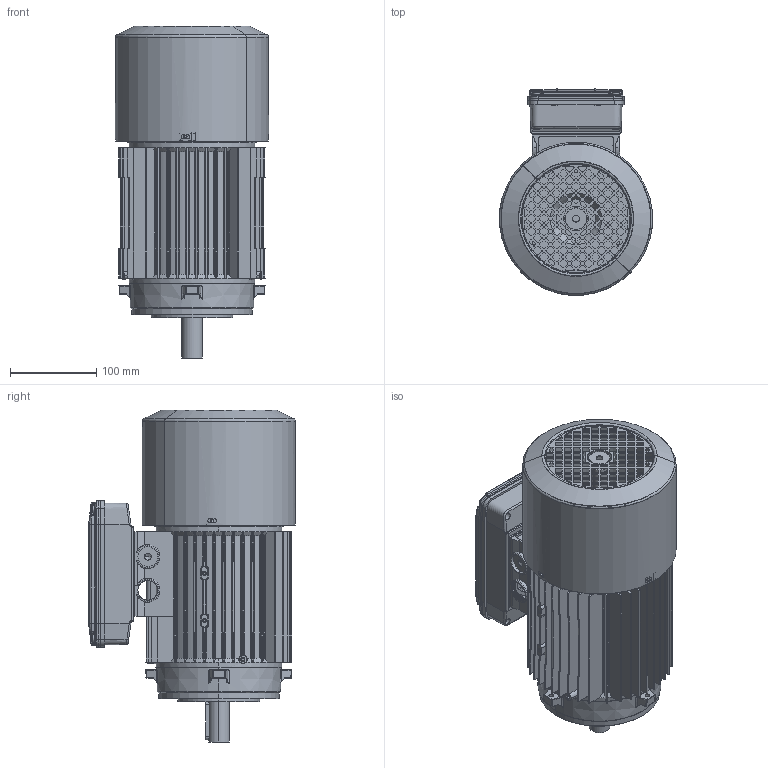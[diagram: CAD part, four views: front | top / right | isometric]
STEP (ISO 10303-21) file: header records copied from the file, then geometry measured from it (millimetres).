
FILE_DESCRIPTION (( 'STEP AP214' ), '1' );
FILE_NAME ('M14FC0011.STEP', '2019-09-18T12:23:26', ( '' ), ( '' ), 'SwSTEP 2.0', 'SolidWorks 2018', '' );
FILE_SCHEMA (( 'AUTOMOTIVE_DESIGN' ));
Length unit declared in the file: millimetre
Products named in the file (13): Vite  a testa bombata M4x16; Coperchio per Scatola per Morsettiera Doppia 90-100-112; Scatola per Morsettiera Doppia 90-100-112; Chiavetta 90; Albero BM 90 L; Cuffia BM 90- DDAS0197; Scudo Lato Freno BM 90 P1; Scudo a flangia B14 BA-BM 90 - DDAC0094; Carcassa 90 L B5; M14FC0011; Scatola per Morsettiera Doppia 90-100-112 - Completa; Guarnizione Coperchio Semplice Scatola BA 90 100 112 - DDAL0094; Guarnizione Doppia Scatola Gr. 90 100 112 - DDAM0094
Assembly tree (15 placements, depth 3):
  M14FC0011
    Carcassa 90 L B5
    Scudo a flangia B14 BA-BM 90 - DDAC0094
    Scudo Lato Freno BM 90 P1
    Cuffia BM 90- DDAS0197
    Albero BM 90 L
    Chiavetta 90
    Scatola per Morsettiera Doppia 90-100-112 - Completa
      Scatola per Morsettiera Doppia 90-100-112
      Coperchio per Scatola per Morsettiera Doppia 90-100-112
      Vite  a testa bombata M4x16  x4
      Guarnizione Doppia Scatola Gr. 90 100 112 - DDAM0094
      Guarnizione Coperchio Semplice Scatola BA 90 100 112 - DDAL0094
Bounding box: 177.91 x 240.26 x 385.5 mm (x, y, z)
Volume: 1376556 mm3; surface area: 832046.4 mm2
Topology: 14 solids, 14 shells, 3436 faces, 9299 edges, 5892 vertices
Faces by surface type: cylinder 1440, plane 1283, torus 314, cone 213, bspline 168, sphere 18
Entity records: 118188 total; most frequent: CARTESIAN_POINT 35423, ORIENTED_EDGE 17686, DIRECTION 16714, EDGE_CURVE 8843, AXIS2_PLACEMENT_3D 6186, VERTEX_POINT 5664, VECTOR 4342, LINE 4342
